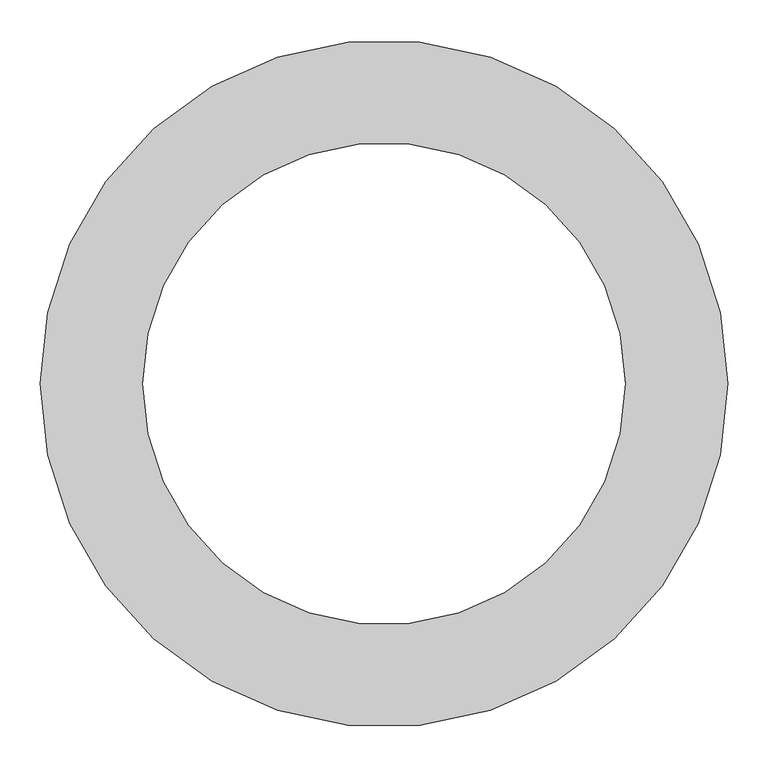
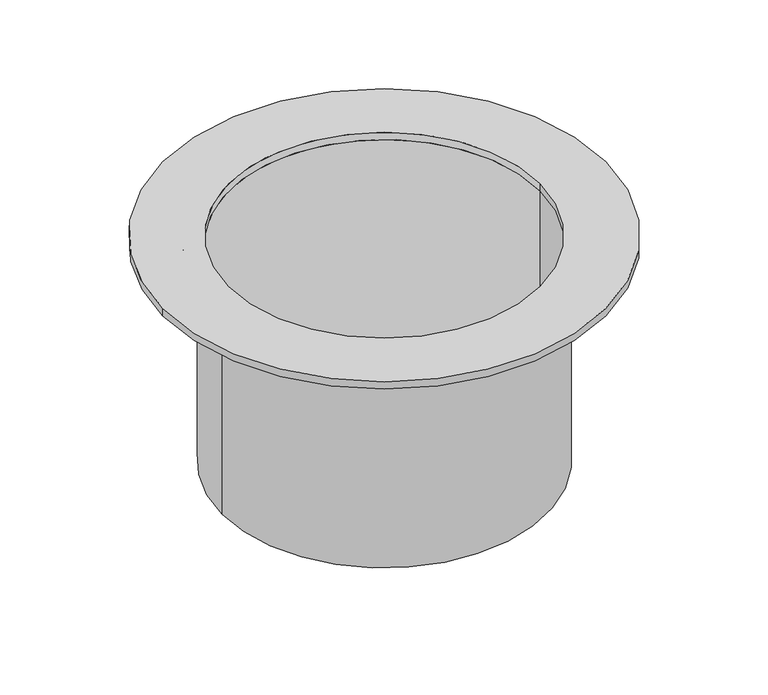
"""IFC4 building model written with IfcOpenShell, lengths in millimetres: proxy geometry, GRAF Tele Dome 600 Lorry : Dome 600 Lorry."""

import ifcopenshell
import ifcopenshell.guid

model = None  # the IFC model being written
_history = None  # IfcOwnerHistory: only IFC2X3 demands one
_inside = {}  # id of a spatial element -> (the spatial element, [elements in it])
_under = {}  # id of a project, library or spatial element -> (it, [spatial elements below it])
_declared = {}  # id of a project -> (the project, [libraries it declares])
_typed = {}  # id of a type object -> (the type object, [elements of that type])
_made_of = {}  # id of a material, layer set ... -> (it, [elements and type objects made of it])


def new_model(schema):
    """Start an empty IFC model of exactly this schema.

    Asked for "IFC4X3", IfcOpenShell would pick the latest addendum, in which some entities
    have other attributes; the version numbers below select the first issue.
    IFC2X3 requires an IfcOwnerHistory on every rooted entity: one is made here for all.
    """
    global model, _history
    if schema == "IFC4X3":
        model = ifcopenshell.file(schema_version=(4, 3, 0, 0))
    else:
        model = ifcopenshell.file(schema=schema)
    _inside.clear()
    _under.clear()
    _declared.clear()
    _typed.clear()
    _made_of.clear()
    _history = None
    if model.schema == "IFC2X3":
        org = make("IfcOrganization", Name="unknown")
        user = make(
            "IfcPersonAndOrganization",
            ThePerson=make("IfcPerson", FamilyName="unknown"),
            TheOrganization=org,
        )
        app = make(
            "IfcApplication",
            ApplicationDeveloper=org,
            Version="unknown",
            ApplicationFullName="unknown",
            ApplicationIdentifier="unknown",
        )
        _history = make(
            "IfcOwnerHistory",
            OwningUser=user,
            OwningApplication=app,
            ChangeAction="ADDED",
            CreationDate=0,
        )
    return model


def make(cls, **values):
    """One entity of the class cls with the attributes given. An attribute that is None is left unset."""
    return model.create_entity(
        cls, **{name: value for name, value in values.items() if value is not None}
    )


def rooted(cls, **values):
    """An entity with a GlobalId (a new one), such as an element, a storey or a relation."""
    return make(cls, GlobalId=ifcopenshell.guid.new(), OwnerHistory=_history, **values)


def si_unit(unit_type, name, prefix=None):
    """IfcSIUnit, for example si_unit("LENGTHUNIT", "METRE", prefix="MILLI")."""
    return make("IfcSIUnit", UnitType=unit_type, Prefix=prefix, Name=name)


def assignment(units):
    """IfcUnitAssignment: the units of a project."""
    return None if units is None else make("IfcUnitAssignment", Units=units)


def point(xyz):
    """IfcCartesianPoint."""
    return None if xyz is None else make("IfcCartesianPoint", Coordinates=xyz)


def direction(xyz):
    """IfcDirection."""
    return None if xyz is None else make("IfcDirection", DirectionRatios=xyz)


def frame(location, z_axis=None, x_axis=None):
    """IfcAxis2Placement3D, a coordinate frame: its origin and axes. An axis left out is left unset."""
    return make(
        "IfcAxis2Placement3D",
        Location=point(location),
        Axis=direction(z_axis),
        RefDirection=direction(x_axis),
    )


def frame_2d(location, x_axis=None):
    """IfcAxis2Placement2D, a coordinate frame in the plane: its origin and x axis."""
    return make(
        "IfcAxis2Placement2D", Location=point(location), RefDirection=direction(x_axis)
    )


def origin():
    """The frame at (0, 0, 0) with its axes left unset."""
    return frame((0.0, 0.0, 0.0))


def origin_2d():
    """The frame at (0, 0) in the plane with its x axis left unset."""
    return frame_2d((0.0, 0.0))


def place(relative_to, where):
    """IfcLocalPlacement: puts the frame where relative to a parent placement (None: the world)."""
    return make(
        "IfcLocalPlacement", PlacementRelTo=relative_to, RelativePlacement=where
    )


def context(
    kind, dimensions, precision=None, world=None, true_north=None, identifier=None
):
    """IfcGeometricRepresentationContext, for example the 3D "Model" context."""
    return make(
        "IfcGeometricRepresentationContext",
        ContextIdentifier=identifier,
        ContextType=kind,
        CoordinateSpaceDimension=dimensions,
        Precision=precision,
        WorldCoordinateSystem=world,
        TrueNorth=true_north,
    )


def project(units=None, contexts=None):
    """IfcProject with its units and contexts."""
    return rooted(
        "IfcProject",
        Name="project",
        RepresentationContexts=contexts,
        UnitsInContext=assignment(units),
    )


def spatial(cls, under=None, at=None, **own):
    """A site, building, storey or space (cls), placed at a placement, below another one or the project."""
    s = rooted(cls, ObjectPlacement=at, **own)
    if under is not None:
        _under.setdefault(under.id(), (under, []))[1].append(s)
    return s


def polyline(points):
    """IfcPolyline through the points."""
    return make("IfcPolyline", Points=[point(p) for p in points])


def circle_curve(where, radius):
    """IfcCircle in the frame where."""
    return make("IfcCircle", Position=where, Radius=radius)


def trimmed(basis, trim1, trim2, sense, master):
    """IfcTrimmedCurve: the piece of a basis curve between two trims."""
    return make(
        "IfcTrimmedCurve",
        BasisCurve=basis,
        Trim1=trim1,
        Trim2=trim2,
        SenseAgreement=sense,
        MasterRepresentation=master,
    )


def segment(curve, same_sense, transition):
    """IfcCompositeCurveSegment."""
    return make(
        "IfcCompositeCurveSegment",
        Transition=transition,
        SameSense=same_sense,
        ParentCurve=curve,
    )


def composite_curve(segments, self_intersect=None):
    """IfcCompositeCurve: segments joined end to end."""
    return make("IfcCompositeCurve", Segments=segments, SelfIntersect=self_intersect)


def outline(outer, holes=None, kind="AREA"):
    """IfcArbitraryClosedProfileDef: a profile drawn as a closed curve; with holes, ...WithVoids."""
    if holes is None:
        return make("IfcArbitraryClosedProfileDef", ProfileType=kind, OuterCurve=outer)
    return make(
        "IfcArbitraryProfileDefWithVoids",
        ProfileType=kind,
        OuterCurve=outer,
        InnerCurves=holes,
    )


def extrude(swept, where, along, depth):
    """IfcExtrudedAreaSolid: the profile swept, set in the frame where, extruded along a direction by depth."""
    return make(
        "IfcExtrudedAreaSolid",
        SweptArea=swept,
        Position=where,
        ExtrudedDirection=direction(along),
        Depth=depth,
    )


def shape(context_of_items, identifier, shape_type, items):
    """IfcShapeRepresentation: the items that make up one representation, for example the "Body"."""
    return make(
        "IfcShapeRepresentation",
        ContextOfItems=context_of_items,
        RepresentationIdentifier=identifier,
        RepresentationType=shape_type,
        Items=items,
    )


def source(mapping_origin, context_of_items, identifier, shape_type, items):
    """IfcRepresentationMap: a shape defined once, which mapped items show again and again."""
    return make(
        "IfcRepresentationMap",
        MappingOrigin=mapping_origin,
        MappedRepresentation=shape(context_of_items, identifier, shape_type, items),
    )


def transform(
    local_origin,
    x_axis=None,
    y_axis=None,
    z_axis=None,
    scale=None,
    scale2=None,
    scale3=None,
    uniform=True,
):
    """IfcCartesianTransformationOperator3D, or its non-uniform kind. x_axis, y_axis, z_axis: its Axis1, 2, 3."""
    if uniform:
        return make(
            "IfcCartesianTransformationOperator3D",
            Axis1=direction(x_axis),
            Axis2=direction(y_axis),
            LocalOrigin=point(local_origin),
            Scale=scale,
            Axis3=direction(z_axis),
        )
    return make(
        "IfcCartesianTransformationOperator3DnonUniform",
        Axis1=direction(x_axis),
        Axis2=direction(y_axis),
        LocalOrigin=point(local_origin),
        Scale=scale,
        Axis3=direction(z_axis),
        Scale2=scale2,
        Scale3=scale3,
    )


def mapped(mapping_source, mapping_target):
    """IfcMappedItem: shows the shape of a source again, moved by a transform."""
    return make(
        "IfcMappedItem", MappingSource=mapping_source, MappingTarget=mapping_target
    )


def made_of(thing, what):
    """Note that an element or type object is made of a material, layer set ...; save() writes the relation."""
    if what is not None:
        _made_of.setdefault(what.id(), (what, []))[1].append(thing)
    return thing


def element(
    cls,
    number,
    at=None,
    inside=None,
    cuts=None,
    type_object=None,
    material=None,
    context=None,
    identifier="Body",
    shape_type=None,
    held_by="IfcProductDefinitionShape",
    body=None,
    shapes=None,
    **own,
):
    """One element of the class cls, such as IfcWall. Its Tag is "e" and its number.

    at: its placement. inside: the storey or other place that contains it. cuts: it is an
    opening in that element (IfcRelVoidsElement). A single representation is given by context,
    identifier, shape_type and body (its items); several are given by shapes. held_by: the class
    of the entity that holds the representations. save() writes the other relations.
    """
    e = rooted(cls, Tag="e%d" % number, ObjectPlacement=at, **own)
    if body is not None:
        shapes = [shape(context, identifier, shape_type, body)]
    if shapes is not None:
        e.Representation = make(held_by, Representations=shapes)
    if inside is not None:
        _inside.setdefault(inside.id(), (inside, []))[1].append(e)
    if cuts is not None:
        rooted(
            "IfcRelVoidsElement", RelatingBuildingElement=cuts, RelatedOpeningElement=e
        )
    if type_object is not None:
        _typed.setdefault(type_object.id(), (type_object, []))[1].append(e)
    return made_of(e, material)


def aggregate(whole, parts):
    """IfcRelAggregates: a whole, such as a stair, and the parts it consists of."""
    return rooted("IfcRelAggregates", RelatingObject=whole, RelatedObjects=parts)


def save(model, path):
    """Write the relations noted so far, then the file.

    IfcRelAggregates (storeys below a building ...), IfcRelContainedInSpatialStructure (elements
    in a storey), IfcRelDefinesByType, IfcRelAssociatesMaterial and IfcRelDeclares: one each for
    every whole, place, type object, material and project.
    """
    for whole, parts in _under.values():
        aggregate(whole, parts)
    for where, things in _inside.values():
        rooted(
            "IfcRelContainedInSpatialStructure",
            RelatedElements=things,
            RelatingStructure=where,
        )
    for kind, things in _typed.values():
        rooted("IfcRelDefinesByType", RelatedObjects=things, RelatingType=kind)
    for what, things in _made_of.values():
        rooted("IfcRelAssociatesMaterial", RelatedObjects=things, RelatingMaterial=what)
    for by, libraries in _declared.values():
        rooted("IfcRelDeclares", RelatingContext=by, RelatedDefinitions=libraries)
    model.write(path)


def specialty_equipment_2c5f0238(model_context):
    return source(origin(), model_context, "Body", "SweptSolid", [
        extrude(outline(composite_curve([segment(trimmed(circle_curve(origin_2d(), 313.0), [point((-313.0, 0.0))], [point((313.0, 0.0))], False, "CARTESIAN"), True, "CONTINUOUS"), segment(trimmed(circle_curve(origin_2d(), 313.0), [point((313.0, 0.0))], [point((-313.0, 0.0))], False, "CARTESIAN"), True, "CONTINUOUS")], self_intersect=False), holes=[composite_curve([segment(trimmed(circle_curve(origin_2d(), 300.0), [point((-300.0, 0.0))], [point((300.0, 0.0))], True, "CARTESIAN"), True, "CONTINUOUS"), segment(trimmed(circle_curve(origin_2d(), 300.0), [point((300.0, 0.0))], [point((-300.0, 0.0))], True, "CARTESIAN"), True, "CONTINUOUS")], self_intersect=False)]), frame((0.0, 0.0, -460.0), z_axis=(0.0, 0.0, 1.0), x_axis=(1.0, 0.0, 0.0)), (0.0, 0.0, 1.0), 445.0499376),
        extrude(outline(composite_curve([segment(trimmed(circle_curve(origin_2d(), 427.5), [point((-427.5, 0.0))], [point((427.5, 0.0))], False, "CARTESIAN"), True, "CONTINUOUS"), segment(trimmed(circle_curve(origin_2d(), 427.5), [point((427.5, 0.0))], [point((-427.5, 0.0))], False, "CARTESIAN"), True, "CONTINUOUS")], self_intersect=False), holes=[composite_curve([segment(trimmed(circle_curve(origin_2d(), 300.0), [point((-300.0, 0.0))], [point((300.0, 0.0))], True, "CARTESIAN"), True, "CONTINUOUS"), segment(trimmed(circle_curve(origin_2d(), 300.0), [point((300.0, 0.0))], [point((-300.0, 0.0))], True, "CARTESIAN"), True, "CONTINUOUS")], self_intersect=False)]), frame((0.0, 0.0, -14.9500624), z_axis=(0.0, 0.0, 1.0), x_axis=(1.0, 0.0, 0.0)), (0.0, 0.0, 1.0), 14.9500624),
        extrude(outline(polyline([(0.0, 0.0), (103.6001835, 0.0), (97.7366644, -23.939106), (0.0, 0.0)])), frame((-395.4623133, -121.3292977, -14.9500624), z_axis=(-0.2817325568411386, 0.959492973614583, 0.0), x_axis=(0.9319450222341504, 0.2736437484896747, -0.23790244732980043)), (0.0, 0.0, 1.0), 10.0),
        extrude(outline(polyline([(100.6257242, 0.0), (0.0, -24.6467372), (0.0, 0.0), (100.6257242, 0.0)])), frame((-201.1926619, -239.8239204, -14.9500624), z_axis=(-0.7557495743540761, 0.6548607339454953, 0.0), x_axis=(-0.6548607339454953, -0.7557495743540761, 0.0)), (0.0, 0.0, 1.0), 10.0),
        extrude(outline(polyline([(42.0990731, 0.0), (42.0990731, -100.6257242), (17.0491355, 0.0), (42.0990731, 0.0)])), frame((-260.6091517, -173.4268435, -57.0491355), z_axis=(-0.5406408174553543, 0.8412535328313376, 0.0), x_axis=(0.0, 0.0, 1.0)), (0.0, 0.0, 1.0), 10.0),
        extrude(outline(polyline([(42.0990731, 0.0), (42.0990731, -100.6257242), (17.0491355, 0.0), (42.0990731, 0.0)])), frame((-125.4767391, -286.7918896, -57.0491355), z_axis=(-0.9096319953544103, 0.41541501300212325, 0.0), x_axis=(0.0, 0.0, 1.0)), (0.0, 0.0, 1.0), 10.0),
        extrude(outline(polyline([(0.0, 0.0), (103.6001836, 0.0), (97.7366645, -23.9391061), (0.0, 0.0)])), frame((-53.9159708, -410.127185, -14.9500624), z_axis=(-0.9898214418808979, 0.142314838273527, 0.0), x_axis=(0.1382288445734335, 0.9614027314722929, -0.2379024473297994)), (0.0, 0.0, 1.0), 10.0),
        extrude(outline(polyline([(-14.9500624, 413.6257242), (-14.9500624, 313.0), (-39.5967996, 313.0), (-14.9500624, 413.6257242)])), frame((0.0, -5.0, 0.0), z_axis=(0.0, 1.0, 0.0), x_axis=(0.0, 0.0, 1.0)), (0.0, 0.0, 1.0), 10.0),
        extrude(outline(polyline([(-42.0990731, 0.0), (-17.0491355, 0.0), (-42.0990731, -100.6257243), (-42.0990731, 0.0)])), frame((301.7299635, 83.3848254, -57.0491355), z_axis=(-0.2817325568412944, 0.9594929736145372, 0.0), x_axis=(0.0, 0.0, -1.0)), (0.0, 0.0, 1.0), 10.0),
        extrude(outline(polyline([(0.0, 0.0), (-97.7366644, -23.9391061), (-103.6001835, 0.0), (0.0, 0.0)])), frame((350.6673059, 219.416682, -14.9500624), z_axis=(-0.5406408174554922, 0.8412535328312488, 0.0), x_axis=(0.8171003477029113, 0.5251185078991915, 0.23790244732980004)), (0.0, 0.0, 1.0), 10.0),
        extrude(outline(polyline([(0.0, 0.0), (-97.7366644, -23.9391061), (-103.6001835, 0.0), (0.0, 0.0)])), frame((345.2608977, -227.8292173, -14.9500624), z_axis=(0.5406408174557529, 0.8412535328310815, 0.0), x_axis=(0.8171003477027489, -0.5251185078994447, 0.23790244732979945)), (0.0, 0.0, 1.0), 10.0),
        extrude(outline(polyline([(0.0, 0.0), (0.0, -25.0499376), (-100.6257241, 0.0), (0.0, 0.0)])), frame((298.912638, -92.9797552, -14.9500624), z_axis=(0.2817325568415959, 0.9594929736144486, 0.0), x_axis=(-0.9594929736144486, 0.2817325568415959, 0.0)), (0.0, 0.0, 1.0), 10.0),
        extrude(outline(polyline([(0.0, 0.0), (0.0, -25.0499376), (-100.6257242, 0.0), (0.0, 0.0)])), frame((201.1926619, -239.8239204, -14.9500624), z_axis=(0.7557495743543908, 0.6548607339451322, 0.0), x_axis=(-0.6548607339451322, 0.7557495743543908, 0.0)), (0.0, 0.0, 1.0), 10.0),
        extrude(outline(polyline([(-100.6257242, 0.0), (0.0, 0.0), (0.0, -24.6467372), (-100.6257242, 0.0)])), frame((125.4767391, -286.7918896, -14.9500624), z_axis=(0.909631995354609, 0.41541501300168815, 0.0), x_axis=(-0.41541501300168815, 0.909631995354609, 0.0)), (0.0, 0.0, 1.0), 10.0),
        extrude(outline(polyline([(-42.0990731, 0.0), (-17.0491355, 0.0), (-42.0990731, -100.6257243), (-42.0990731, 0.0)])), frame((39.5954372, -310.5256855, -57.0491355), z_axis=(0.9898214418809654, 0.14231483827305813, 0.0), x_axis=(0.0, 0.0, -1.0)), (0.0, 0.0, 1.0), 10.0),
        extrude(outline(polyline([(0.0, 0.0), (103.6001836, 0.0), (97.7366645, -23.9391061), (0.0, 0.0)])), frame((-63.8141853, 408.7040366, -14.9500624), z_axis=(0.9898214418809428, 0.1423148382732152, 0.0), x_axis=(0.13822884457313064, -0.9614027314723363, -0.23790244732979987)), (0.0, 0.0, 1.0), 10.0),
        extrude(outline(polyline([(0.0, 0.0), (0.0, -25.0499376), (-100.6257243, 0.0), (0.0, 0.0)])), frame((49.4936516, 309.1025371, -14.9500624), z_axis=(-0.9898214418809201, 0.14231483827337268, 0.0), x_axis=(-0.14231483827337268, -0.9898214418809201, 0.0)), (0.0, 0.0, 1.0), 10.0),
        extrude(outline(polyline([(-100.6257242, 0.0), (0.0, 0.0), (0.0, -24.6467372), (-100.6257242, 0.0)])), frame((134.573059, 282.6377395, -14.9500624), z_axis=(-0.909631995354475, 0.41541501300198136, 0.0), x_axis=(-0.41541501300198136, -0.909631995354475, 0.0)), (0.0, 0.0, 1.0), 10.0),
        extrude(outline(polyline([(-42.0990731, 0.0), (-17.0491355, 0.0), (-42.0990731, -100.6257242), (-42.0990731, 0.0)])), frame((208.7501576, 233.2753131, -57.0491355), z_axis=(-0.7557495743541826, 0.6548607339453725, 0.0), x_axis=(0.0, 0.0, -1.0)), (0.0, 0.0, 1.0), 10.0),
        extrude(outline(polyline([(100.6257242, 0.0), (0.0, -24.6467372), (0.0, 0.0), (100.6257242, 0.0)])), frame((-208.7501576, 233.2753131, -14.9500624), z_axis=(0.7557495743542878, 0.6548607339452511, 0.0), x_axis=(-0.6548607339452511, 0.7557495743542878, 0.0)), (0.0, 0.0, 1.0), 10.0),
        extrude(outline(polyline([(42.0990731, 0.0), (42.0990731, -100.6257242), (17.0491355, 0.0), (42.0990731, 0.0)])), frame((-134.573059, 282.6377395, -57.0491355), z_axis=(0.9096319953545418, 0.41541501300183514, 0.0), x_axis=(0.0, 0.0, 1.0)), (0.0, 0.0, 1.0), 10.0),
        extrude(outline(polyline([(42.0990731, 0.0), (42.0990731, -100.6257242), (17.0491355, 0.0), (42.0990731, 0.0)])), frame((-266.0155599, 165.0143082, -57.0491355), z_axis=(0.5406408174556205, 0.8412535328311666, 0.0), x_axis=(0.0, 0.0, 1.0)), (0.0, 0.0, 1.0), 10.0),
        extrude(outline(composite_curve([segment(trimmed(circle_curve(origin_2d(), 313.0), [point((-260.5755532, -173.4052511))], [point((-208.7240033, -233.2451295))], True, "CARTESIAN"), True, "CONTINUOUS"), segment(polyline([(-208.7240033, -233.2451295), (-225.0974564, -252.1411016)]), True, "CONTINUOUS"), segment(trimmed(circle_curve(origin_2d(), 338.0), [point((-225.0974564, -252.1411016))], [point((-281.6093769, -186.9228688))], False, "CARTESIAN"), True, "CONTINUOUS"), segment(polyline([(-281.6093769, -186.9228688), (-260.5755532, -173.4052511)]), True, "CONTINUOUS")], self_intersect=False)), frame((0.0, 0.0, -19.9500624), z_axis=(0.0, 0.0, 1.0), x_axis=(1.0, 0.0, 0.0)), (0.0, 0.0, 1.0), 5.0),
        extrude(outline(composite_curve([segment(polyline([(-265.9819613, -164.9927157), (-287.015785, -178.5103334)]), True, "CONTINUOUS"), segment(trimmed(circle_curve(origin_2d(), 338.0), [point((-287.015785, -178.5103334))], [point((-322.8644761, -100.0126494))], False, "CARTESIAN"), True, "CONTINUOUS"), segment(polyline([(-322.8644761, -100.0126494), (-298.8743171, -92.9685031)]), True, "CONTINUOUS"), segment(trimmed(circle_curve(origin_2d(), 313.0), [point((-298.8743171, -92.9685031))], [point((-265.9819613, -164.9927157))], True, "CARTESIAN"), True, "CONTINUOUS")], self_intersect=False)), frame((0.0, 0.0, -19.9500624), z_axis=(0.0, 0.0, 1.0), x_axis=(1.0, 0.0, 0.0)), (0.0, 0.0, 1.0), 5.0),
        extrude(outline(composite_curve([segment(polyline([(-312.9600613, 5.0), (-337.9630157, 5.0)]), True, "CONTINUOUS"), segment(trimmed(circle_curve(origin_2d(), 338.0), [point((-337.9630157, 5.0))], [point((-325.6818017, 90.4177197))], False, "CARTESIAN"), True, "CONTINUOUS"), segment(polyline([(-325.6818017, 90.4177197), (-301.6916427, 83.3735734)]), True, "CONTINUOUS"), segment(trimmed(circle_curve(origin_2d(), 313.0), [point((-301.6916427, 83.3735734))], [point((-312.9600613, 5.0))], True, "CARTESIAN"), True, "CONTINUOUS")], self_intersect=False)), frame((0.0, 0.0, -19.9500624), z_axis=(0.0, 0.0, 1.0), x_axis=(1.0, 0.0, 0.0)), (0.0, 0.0, 1.0), 5.0),
        extrude(outline(composite_curve([segment(trimmed(circle_curve(origin_2d(), 313.0), [point((-312.9600613, -5.0))], [point((-301.6916427, -83.3735734))], True, "CARTESIAN"), True, "CONTINUOUS"), segment(polyline([(-301.6916427, -83.3735734), (-325.6818017, -90.4177197)]), True, "CONTINUOUS"), segment(trimmed(circle_curve(origin_2d(), 338.0), [point((-325.6818017, -90.4177197))], [point((-337.9630157, -5.0))], False, "CARTESIAN"), True, "CONTINUOUS"), segment(polyline([(-337.9630157, -5.0), (-312.9600613, -5.0)]), True, "CONTINUOUS")], self_intersect=False)), frame((0.0, 0.0, -19.9500624), z_axis=(0.0, 0.0, 1.0), x_axis=(1.0, 0.0, 0.0)), (0.0, 0.0, 1.0), 5.0),
        extrude(outline(composite_curve([segment(trimmed(circle_curve(origin_2d(), 313.0), [point((-265.9819613, 164.9927157))], [point((-298.8743171, 92.9685031))], True, "CARTESIAN"), True, "CONTINUOUS"), segment(polyline([(-298.8743171, 92.9685031), (-322.8644761, 100.0126494)]), True, "CONTINUOUS"), segment(trimmed(circle_curve(origin_2d(), 338.0), [point((-322.8644761, 100.0126494))], [point((-287.015785, 178.5103334))], False, "CARTESIAN"), True, "CONTINUOUS"), segment(polyline([(-287.015785, 178.5103334), (-265.9819613, 164.9927157)]), True, "CONTINUOUS")], self_intersect=False)), frame((0.0, 0.0, -19.9500624), z_axis=(0.0, 0.0, 1.0), x_axis=(1.0, 0.0, 0.0)), (0.0, 0.0, 1.0), 5.0),
        extrude(outline(composite_curve([segment(polyline([(-260.5755532, 173.4052511), (-281.6093769, 186.9228688)]), True, "CONTINUOUS"), segment(trimmed(circle_curve(origin_2d(), 338.0), [point((-281.6093769, 186.9228688))], [point((-225.0974564, 252.1411016))], False, "CARTESIAN"), True, "CONTINUOUS"), segment(polyline([(-225.0974564, 252.1411016), (-208.7240033, 233.2451295)]), True, "CONTINUOUS"), segment(trimmed(circle_curve(origin_2d(), 313.0), [point((-208.7240033, 233.2451295))], [point((-260.5755532, 173.4052511))], True, "CARTESIAN"), True, "CONTINUOUS")], self_intersect=False)), frame((0.0, 0.0, -19.9500624), z_axis=(0.0, 0.0, 1.0), x_axis=(1.0, 0.0, 0.0)), (0.0, 0.0, 1.0), 5.0),
        extrude(outline(composite_curve([segment(polyline([(208.7240033, 233.2451295), (225.0974564, 252.1411016)]), True, "CONTINUOUS"), segment(trimmed(circle_curve(origin_2d(), 338.0), [point((225.0974564, 252.1411016))], [point((281.6093769, 186.9228688))], False, "CARTESIAN"), True, "CONTINUOUS"), segment(polyline([(281.6093769, 186.9228688), (260.5755532, 173.4052511)]), True, "CONTINUOUS"), segment(trimmed(circle_curve(origin_2d(), 313.0), [point((260.5755532, 173.4052511))], [point((208.7240033, 233.2451295))], True, "CARTESIAN"), True, "CONTINUOUS")], self_intersect=False)), frame((0.0, 0.0, -19.9500624), z_axis=(0.0, 0.0, 1.0), x_axis=(1.0, 0.0, 0.0)), (0.0, 0.0, 1.0), 5.0),
        extrude(outline(composite_curve([segment(trimmed(circle_curve(origin_2d(), 313.0), [point((201.1665076, 239.7937368))], [point((134.5564679, 282.60141))], True, "CARTESIAN"), True, "CONTINUOUS"), segment(polyline([(134.5564679, 282.60141), (144.9430705, 305.3448973)]), True, "CONTINUOUS"), segment(trimmed(circle_curve(origin_2d(), 338.0), [point((144.9430705, 305.3448973))], [point((217.5399607, 258.689709))], False, "CARTESIAN"), True, "CONTINUOUS"), segment(polyline([(217.5399607, 258.689709), (201.1665076, 239.7937368)]), True, "CONTINUOUS")], self_intersect=False)), frame((0.0, 0.0, -19.9500624), z_axis=(0.0, 0.0, 1.0), x_axis=(1.0, 0.0, 0.0)), (0.0, 0.0, 1.0), 5.0),
        extrude(outline(composite_curve([segment(trimmed(circle_curve(origin_2d(), 313.0), [point((39.5897533, 310.4861534))], [point((-39.5897533, 310.4861534))], True, "CARTESIAN"), True, "CONTINUOUS"), segment(polyline([(-39.5897533, 310.4861534), (-43.1480447, 335.2346137)]), True, "CONTINUOUS"), segment(trimmed(circle_curve(origin_2d(), 338.0), [point((-43.1480447, 335.2346137))], [point((43.1480447, 335.2346137))], False, "CARTESIAN"), True, "CONTINUOUS"), segment(polyline([(43.1480447, 335.2346137), (39.5897533, 310.4861534)]), True, "CONTINUOUS")], self_intersect=False)), frame((0.0, 0.0, -19.9500624), z_axis=(0.0, 0.0, 1.0), x_axis=(1.0, 0.0, 0.0)), (0.0, 0.0, 1.0), 5.0),
        extrude(outline(composite_curve([segment(polyline([(49.4879677, 309.063005), (53.0462591, 333.8114653)]), True, "CONTINUOUS"), segment(trimmed(circle_curve(origin_2d(), 338.0), [point((53.0462591, 333.8114653))], [point((135.8467506, 309.4990474))], False, "CARTESIAN"), True, "CONTINUOUS"), segment(polyline([(135.8467506, 309.4990474), (125.460148, 286.7555601)]), True, "CONTINUOUS"), segment(trimmed(circle_curve(origin_2d(), 313.0), [point((125.460148, 286.7555601))], [point((49.4879677, 309.063005))], True, "CARTESIAN"), True, "CONTINUOUS")], self_intersect=False)), frame((0.0, 0.0, -19.9500624), z_axis=(0.0, 0.0, 1.0), x_axis=(1.0, 0.0, 0.0)), (0.0, 0.0, 1.0), 5.0),
        extrude(outline(composite_curve([segment(polyline([(-125.460148, 286.7555601), (-135.8467506, 309.4990474)]), True, "CONTINUOUS"), segment(trimmed(circle_curve(origin_2d(), 338.0), [point((-135.8467506, 309.4990474))], [point((-53.0462591, 333.8114653))], False, "CARTESIAN"), True, "CONTINUOUS"), segment(polyline([(-53.0462591, 333.8114653), (-49.4879677, 309.063005)]), True, "CONTINUOUS"), segment(trimmed(circle_curve(origin_2d(), 313.0), [point((-49.4879677, 309.063005))], [point((-125.460148, 286.7555601))], True, "CARTESIAN"), True, "CONTINUOUS")], self_intersect=False)), frame((0.0, 0.0, -19.9500624), z_axis=(0.0, 0.0, 1.0), x_axis=(1.0, 0.0, 0.0)), (0.0, 0.0, 1.0), 5.0),
        extrude(outline(composite_curve([segment(trimmed(circle_curve(origin_2d(), 313.0), [point((-134.5564679, 282.60141))], [point((-201.1665076, 239.7937368))], True, "CARTESIAN"), True, "CONTINUOUS"), segment(polyline([(-201.1665076, 239.7937368), (-217.5399607, 258.689709)]), True, "CONTINUOUS"), segment(trimmed(circle_curve(origin_2d(), 338.0), [point((-217.5399607, 258.689709))], [point((-144.9430705, 305.3448973))], False, "CARTESIAN"), True, "CONTINUOUS"), segment(polyline([(-144.9430705, 305.3448973), (-134.5564679, 282.60141)]), True, "CONTINUOUS")], self_intersect=False)), frame((0.0, 0.0, -19.9500624), z_axis=(0.0, 0.0, 1.0), x_axis=(1.0, 0.0, 0.0)), (0.0, 0.0, 1.0), 5.0),
        extrude(outline(composite_curve([segment(trimmed(circle_curve(origin_2d(), 313.0), [point((298.8743171, 92.9685031))], [point((265.9819613, 164.9927157))], True, "CARTESIAN"), True, "CONTINUOUS"), segment(polyline([(265.9819613, 164.9927157), (287.015785, 178.5103334)]), True, "CONTINUOUS"), segment(trimmed(circle_curve(origin_2d(), 338.0), [point((287.015785, 178.5103334))], [point((322.8644761, 100.0126494))], False, "CARTESIAN"), True, "CONTINUOUS"), segment(polyline([(322.8644761, 100.0126494), (298.8743171, 92.9685031)]), True, "CONTINUOUS")], self_intersect=False)), frame((0.0, 0.0, -19.9500624), z_axis=(0.0, 0.0, 1.0), x_axis=(1.0, 0.0, 0.0)), (0.0, 0.0, 1.0), 5.0),
        extrude(outline(composite_curve([segment(polyline([(301.6916427, 83.3735734), (325.6818017, 90.4177197)]), True, "CONTINUOUS"), segment(trimmed(circle_curve(origin_2d(), 338.0), [point((325.6818017, 90.4177197))], [point((337.9630157, 5.0))], False, "CARTESIAN"), True, "CONTINUOUS"), segment(polyline([(337.9630157, 5.0), (312.9600613, 5.0)]), True, "CONTINUOUS"), segment(trimmed(circle_curve(origin_2d(), 313.0), [point((312.9600613, 5.0))], [point((301.6916427, 83.3735734))], True, "CARTESIAN"), True, "CONTINUOUS")], self_intersect=False)), frame((0.0, 0.0, -19.9500624), z_axis=(0.0, 0.0, 1.0), x_axis=(1.0, 0.0, 0.0)), (0.0, 0.0, 1.0), 5.0),
        extrude(outline(composite_curve([segment(polyline([(298.8743171, -92.9685031), (322.8644761, -100.0126494)]), True, "CONTINUOUS"), segment(trimmed(circle_curve(origin_2d(), 338.0), [point((322.8644761, -100.0126494))], [point((287.015785, -178.5103334))], False, "CARTESIAN"), True, "CONTINUOUS"), segment(polyline([(287.015785, -178.5103334), (265.9819613, -164.9927157)]), True, "CONTINUOUS"), segment(trimmed(circle_curve(origin_2d(), 313.0), [point((265.9819613, -164.9927157))], [point((298.8743171, -92.9685031))], True, "CARTESIAN"), True, "CONTINUOUS")], self_intersect=False)), frame((0.0, 0.0, -19.9500624), z_axis=(0.0, 0.0, 1.0), x_axis=(1.0, 0.0, 0.0)), (0.0, 0.0, 1.0), 5.0),
        extrude(outline(composite_curve([segment(trimmed(circle_curve(origin_2d(), 313.0), [point((301.6916427, -83.3735734))], [point((312.9600613, -5.0))], True, "CARTESIAN"), True, "CONTINUOUS"), segment(polyline([(312.9600613, -5.0), (337.9630157, -5.0)]), True, "CONTINUOUS"), segment(trimmed(circle_curve(origin_2d(), 338.0), [point((337.9630157, -5.0))], [point((325.6818017, -90.4177197))], False, "CARTESIAN"), True, "CONTINUOUS"), segment(polyline([(325.6818017, -90.4177197), (301.6916427, -83.3735734)]), True, "CONTINUOUS")], self_intersect=False)), frame((0.0, 0.0, -19.9500624), z_axis=(0.0, 0.0, 1.0), x_axis=(1.0, 0.0, 0.0)), (0.0, 0.0, 1.0), 5.0),
        extrude(outline(composite_curve([segment(trimmed(circle_curve(origin_2d(), 313.0), [point((208.7240033, -233.2451295))], [point((260.5755532, -173.4052511))], True, "CARTESIAN"), True, "CONTINUOUS"), segment(polyline([(260.5755532, -173.4052511), (281.6093769, -186.9228688)]), True, "CONTINUOUS"), segment(trimmed(circle_curve(origin_2d(), 338.0), [point((281.6093769, -186.9228688))], [point((225.0974564, -252.1411016))], False, "CARTESIAN"), True, "CONTINUOUS"), segment(polyline([(225.0974564, -252.1411016), (208.7240033, -233.2451295)]), True, "CONTINUOUS")], self_intersect=False)), frame((0.0, 0.0, -19.9500624), z_axis=(0.0, 0.0, 1.0), x_axis=(1.0, 0.0, 0.0)), (0.0, 0.0, 1.0), 5.0),
        extrude(outline(composite_curve([segment(polyline([(201.1665076, -239.7937368), (217.5399607, -258.689709)]), True, "CONTINUOUS"), segment(trimmed(circle_curve(origin_2d(), 338.0), [point((217.5399607, -258.689709))], [point((144.9430705, -305.3448973))], False, "CARTESIAN"), True, "CONTINUOUS"), segment(polyline([(144.9430705, -305.3448973), (134.5564679, -282.60141)]), True, "CONTINUOUS"), segment(trimmed(circle_curve(origin_2d(), 313.0), [point((134.5564679, -282.60141))], [point((201.1665076, -239.7937368))], True, "CARTESIAN"), True, "CONTINUOUS")], self_intersect=False)), frame((0.0, 0.0, -19.9500624), z_axis=(0.0, 0.0, 1.0), x_axis=(1.0, 0.0, 0.0)), (0.0, 0.0, 1.0), 5.0),
        extrude(outline(composite_curve([segment(trimmed(circle_curve(origin_2d(), 313.0), [point((-125.460148, -286.7555601))], [point((-49.4879677, -309.063005))], True, "CARTESIAN"), True, "CONTINUOUS"), segment(polyline([(-49.4879677, -309.063005), (-53.0462591, -333.8114653)]), True, "CONTINUOUS"), segment(trimmed(circle_curve(origin_2d(), 338.0), [point((-53.0462591, -333.8114653))], [point((-135.8467506, -309.4990474))], False, "CARTESIAN"), True, "CONTINUOUS"), segment(polyline([(-135.8467506, -309.4990474), (-125.460148, -286.7555601)]), True, "CONTINUOUS")], self_intersect=False)), frame((0.0, 0.0, -19.9500624), z_axis=(0.0, 0.0, 1.0), x_axis=(1.0, 0.0, 0.0)), (0.0, 0.0, 1.0), 5.0),
        extrude(outline(composite_curve([segment(polyline([(-134.5564679, -282.60141), (-144.9430705, -305.3448973)]), True, "CONTINUOUS"), segment(trimmed(circle_curve(origin_2d(), 338.0), [point((-144.9430705, -305.3448973))], [point((-217.5399607, -258.689709))], False, "CARTESIAN"), True, "CONTINUOUS"), segment(polyline([(-217.5399607, -258.689709), (-201.1665076, -239.7937368)]), True, "CONTINUOUS"), segment(trimmed(circle_curve(origin_2d(), 313.0), [point((-201.1665076, -239.7937368))], [point((-134.5564679, -282.60141))], True, "CARTESIAN"), True, "CONTINUOUS")], self_intersect=False)), frame((0.0, 0.0, -19.9500624), z_axis=(0.0, 0.0, 1.0), x_axis=(1.0, 0.0, 0.0)), (0.0, 0.0, 1.0), 5.0),
        extrude(outline(composite_curve([segment(polyline([(39.5897533, -310.4861534), (43.1480447, -335.2346137)]), True, "CONTINUOUS"), segment(trimmed(circle_curve(origin_2d(), 338.0), [point((43.1480447, -335.2346137))], [point((-43.1480447, -335.2346137))], False, "CARTESIAN"), True, "CONTINUOUS"), segment(polyline([(-43.1480447, -335.2346137), (-39.5897533, -310.4861534)]), True, "CONTINUOUS"), segment(trimmed(circle_curve(origin_2d(), 313.0), [point((-39.5897533, -310.4861534))], [point((39.5897533, -310.4861534))], True, "CARTESIAN"), True, "CONTINUOUS")], self_intersect=False)), frame((0.0, 0.0, -19.9500624), z_axis=(0.0, 0.0, 1.0), x_axis=(1.0, 0.0, 0.0)), (0.0, 0.0, 1.0), 5.0),
        extrude(outline(composite_curve([segment(trimmed(circle_curve(origin_2d(), 313.0), [point((49.4879677, -309.063005))], [point((125.460148, -286.7555601))], True, "CARTESIAN"), True, "CONTINUOUS"), segment(polyline([(125.460148, -286.7555601), (135.8467506, -309.4990474)]), True, "CONTINUOUS"), segment(trimmed(circle_curve(origin_2d(), 338.0), [point((135.8467506, -309.4990474))], [point((53.0462591, -333.8114653))], False, "CARTESIAN"), True, "CONTINUOUS"), segment(polyline([(53.0462591, -333.8114653), (49.4879677, -309.063005)]), True, "CONTINUOUS")], self_intersect=False)), frame((0.0, 0.0, -19.9500624), z_axis=(0.0, 0.0, 1.0), x_axis=(1.0, 0.0, 0.0)), (0.0, 0.0, 1.0), 5.0),
        extrude(outline(polyline([(0.0, 0.0), (103.6001836, 0.0), (97.7366645, -23.9391061), (0.0, 0.0)])), frame((-398.2796389, 111.734368, -14.9500624), z_axis=(0.2817325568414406, 0.9594929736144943, 0.0), x_axis=(0.9319450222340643, -0.273643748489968, -0.2379024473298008)), (0.0, 0.0, 1.0), 10.0),
        extrude(outline(polyline([(-14.9500624, -313.0), (-14.9500624, -413.6257242), (-40.0, -313.0), (-14.9500624, -313.0)])), frame((0.0, -5.0, 0.0), z_axis=(0.0, 1.0, 0.0), x_axis=(0.0, 0.0, 1.0)), (0.0, 0.0, 1.0), 10.0),
    ])


if __name__ == "__main__":
    model = new_model("IFC4")
    model_context = context("Model", 3, world=origin())
    ifc_project = project(units=[si_unit("LENGTHUNIT", "METRE", prefix="MILLI")], contexts=[model_context])
    site = spatial("IfcSite", under=ifc_project)
    building = spatial("IfcBuilding", under=site)
    placement = place(None, origin())
    specialty_equipment_shape = specialty_equipment_2c5f0238(model_context)
    element("IfcBuildingElementProxy", 1, Name="GRAF Tele Dome 600 Lorry : Dome 600 Lorry", ObjectType="GRAF Tele Dome 600 Lorry : Dome 600 Lorry", at=placement, inside=building, context=model_context, shape_type="MappedRepresentation", body=[
        mapped(specialty_equipment_shape, transform((0.0, 0.0, 0.0), x_axis=(1.0, 0.0, 0.0), y_axis=(0.0, 1.0, 0.0), z_axis=(0.0, 0.0, 1.0))),
    ])
    save(model, "model.ifc")
